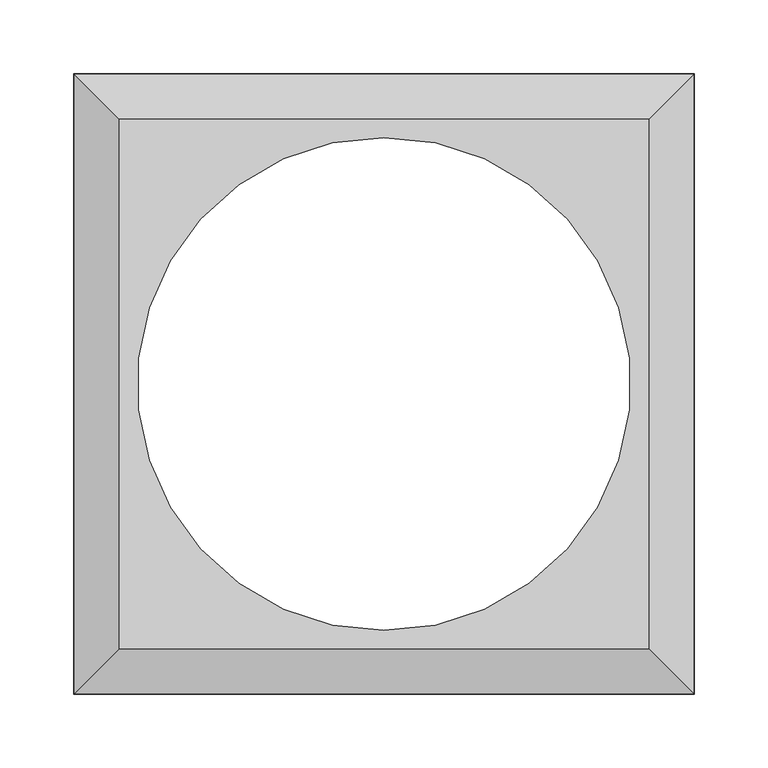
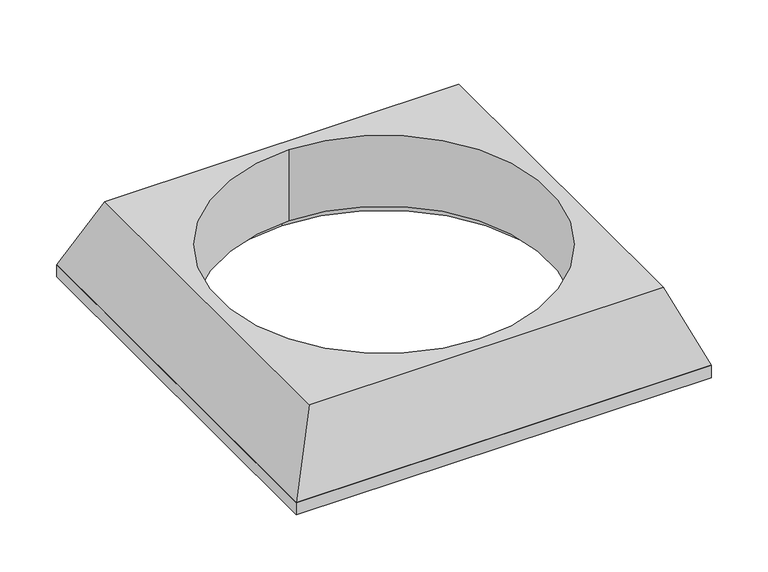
"""IFC4 building model written with IfcOpenShell, lengths in millimetres: valve geometry, Pipelife - Studnia PRO - Stożek odciążający 315 pod teleskop klasy D : Stożek odciążający TX315N355U."""

from ifc_helpers import new_model, si_unit, point, frame, origin, origin_2d, place, context, project, spatial, polyline, circle_curve, trimmed, segment, composite_curve, outline, extrude, source, transform, mapped, element, save
from ifc_brep_helpers import plane_surface, revolved_surface, advanced_brep


def valve_491c27f9(model_context):
    return source(origin(), model_context, "Body", "SolidModel", [
        extrude(outline(polyline([(211.0, 211.0), (211.0, -211.0), (-211.0, -211.0), (-211.0, 211.0), (211.0, 211.0)]), holes=[composite_curve([segment(trimmed(circle_curve(origin_2d(), 180.0), [point((0.0, 180.0))], [point((0.0, -180.0))], True, "CARTESIAN"), True, "CONTINUOUS"), segment(trimmed(circle_curve(origin_2d(), 180.0), [point((0.0, -180.0))], [point((0.0, 180.0))], True, "CARTESIAN"), True, "CONTINUOUS")], self_intersect=False)]), frame((0.0, 0.0, 200.0), z_axis=(0.0, 0.0, 1.0), x_axis=(1.0, 0.0, 0.0)), (0.0, 0.0, 1.0), 13.0),
        advanced_brep(
        [(0.0, -167.5, 289.0), (0.0, -167.5, 213.0), (0.0, 167.5, 213.0), (0.0, 167.5, 289.0), (180.0, 180.0, 289.0), (-180.0, 180.0, 289.0), (-180.0, -180.0, 289.0), (180.0, -180.0, 289.0), (211.0, 211.0, 213.0), (211.0, -211.0, 213.0), (-211.0, -211.0, 213.0), (-211.0, 211.0, 213.0)],
        [
            (0, 1),
            (1, 2, circle_curve(frame((0.0, 0.0, 213.0), z_axis=(0.0, 0.0, -1.0), x_axis=(0.0, -1.0, 0.0)), 167.5)),
            (2, 3),
            (3, 0, circle_curve(frame((0.0, 0.0, 289.0), z_axis=(0.0, 0.0, 1.0), x_axis=(0.0, -1.0, 0.0)), 167.5)),
            (0, 3, circle_curve(frame((0.0, 0.0, 289.0), z_axis=(0.0, 0.0, 1.0), x_axis=(0.0, -1.0, 0.0)), 167.5)),
            (2, 1, circle_curve(frame((0.0, 0.0, 213.0), z_axis=(0.0, 0.0, -1.0), x_axis=(0.0, -1.0, 0.0)), 167.5)),
            (4, 5),
            (5, 6),
            (6, 7),
            (7, 4),
            (8, 9),
            (9, 10),
            (10, 11),
            (11, 8),
            (4, 8),
            (11, 5),
            (10, 6),
            (9, 7),
        ],
        [
            revolved_surface(polyline([(0.0, -167.5, 289.0), (0.0, -167.5, 213.0)]), (0.0, 0.0, 289.0), (0.0, 0.0, 1.0)),
            plane_surface(frame((0.0, 0.0, 289.0), z_axis=(0.0, 0.0, 1.0), x_axis=(-1.0, 0.0, 0.0))),
            plane_surface(frame((0.0, 0.0, 213.0), z_axis=(0.0, 0.0, -1.0), x_axis=(-1.0, 0.0, 0.0))),
            plane_surface(frame((0.0, 211.0, 213.0), z_axis=(0.0, 0.9259346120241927, 0.3776838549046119), x_axis=(-1.0, 0.0, 0.0))),
            plane_surface(frame((-211.0, 0.0, 213.0), z_axis=(-0.9259346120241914, 0.0, 0.3776838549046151), x_axis=(0.0, -1.0, 0.0))),
            plane_surface(frame((0.0, -211.0, 213.0), z_axis=(0.0, -0.9259346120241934, 0.37768385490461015), x_axis=(1.0, 0.0, 0.0))),
            plane_surface(frame((211.0, 0.0, 213.0), z_axis=(0.9259346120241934, 0.0, 0.37768385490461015), x_axis=(0.0, 1.0, 0.0))),
        ],
        [
            (0, [[1, 2, 3, 4]]),
            (0, [[-1, 5, -3, 6]]),
            (1, [[7, 8, 9, 10], [-4, -5]]),
            (2, [[11, 12, 13, 14], [-2, -6]]),
            (3, [[-7, 15, -14, 16]]),
            (4, [[-8, -16, -13, 17]]),
            (5, [[-9, -17, -12, 18]]),
            (6, [[-10, -18, -11, -15]]),
        ],
    ),
    ])


if __name__ == "__main__":
    model = new_model("IFC4")
    model_context = context("Model", 3, world=origin())
    ifc_project = project(units=[si_unit("LENGTHUNIT", "METRE", prefix="MILLI")], contexts=[model_context])
    site = spatial("IfcSite", under=ifc_project)
    building = spatial("IfcBuilding", under=site)
    placement = place(None, origin())
    valve_shape = valve_491c27f9(model_context)
    element("IfcValve", 1, ObjectType="Pipelife - Studnia PRO - Stożek odciążający 315 pod teleskop klasy D : Stożek odciążający TX315N355U", at=placement, inside=building, context=model_context, shape_type="MappedRepresentation", body=[
        mapped(valve_shape, transform((0.0, 0.0, 0.0), x_axis=(1.0, 0.0, 0.0), y_axis=(0.0, 1.0, 0.0), z_axis=(0.0, 0.0, 1.0))),
    ])
    save(model, "model.ifc")
